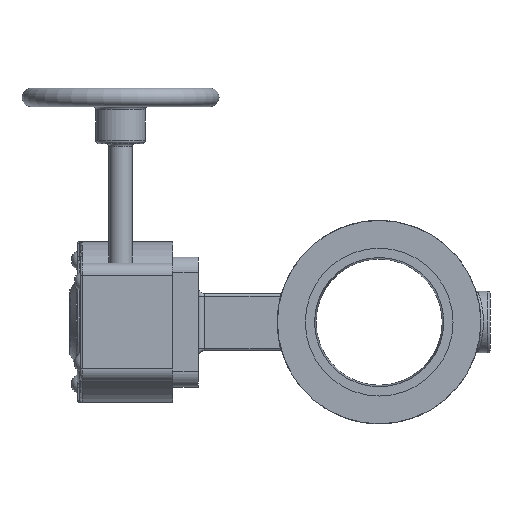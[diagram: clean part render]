
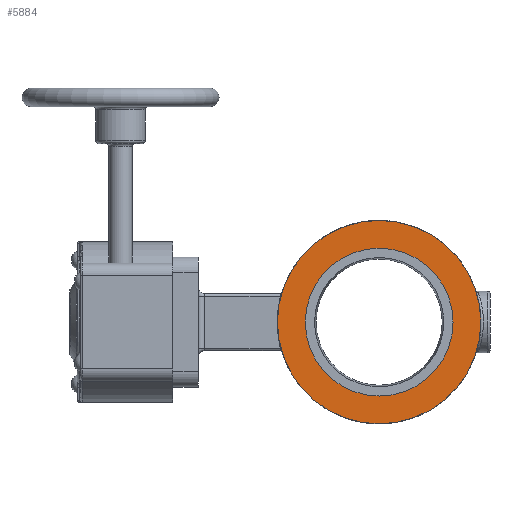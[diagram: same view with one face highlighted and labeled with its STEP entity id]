
A CAD part, left-side view. The second image highlights one B-rep face of the part: STEP entity #5884.
In plain terms, the highlighted planar face has unit normal (-1, 0, 0) as drawn and (0, 0, 1) by its records, which use the part's own axes.
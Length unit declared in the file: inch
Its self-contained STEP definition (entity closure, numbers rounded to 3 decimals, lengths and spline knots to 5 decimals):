
#202=FACE_BOUND('',#795,.T.);
#261=PLANE('',#6437);
#419=FACE_OUTER_BOUND('',#794,.T.);
#794=EDGE_LOOP('',(#3994,#3995));
#795=EDGE_LOOP('',(#3996,#3997));
#1803=CIRCLE('',#6372,2.065);
#1804=CIRCLE('',#6373,2.065);
#1843=CIRCLE('',#6435,1.4225);
#1844=CIRCLE('',#6436,1.4225);
#2338=VERTEX_POINT('',#9871);
#2339=VERTEX_POINT('',#9873);
#2359=VERTEX_POINT('',#10119);
#2360=VERTEX_POINT('',#10120);
#2907=EDGE_CURVE('',#2338,#2339,#1803,.T.);
#2908=EDGE_CURVE('',#2339,#2338,#1804,.T.);
#2952=EDGE_CURVE('',#2359,#2360,#1843,.T.);
#2953=EDGE_CURVE('',#2360,#2359,#1844,.T.);
#3994=ORIENTED_EDGE('',*,*,#2908,.F.);
#3995=ORIENTED_EDGE('',*,*,#2907,.F.);
#3996=ORIENTED_EDGE('',*,*,#2952,.T.);
#3997=ORIENTED_EDGE('',*,*,#2953,.T.);
#5884=ADVANCED_FACE('',(#419,#202),#261,.T.);
#6372=AXIS2_PLACEMENT_3D('',#9874,#7391,#7392);
#6373=AXIS2_PLACEMENT_3D('',#9875,#7393,#7394);
#6435=AXIS2_PLACEMENT_3D('',#10121,#7520,#7521);
#6436=AXIS2_PLACEMENT_3D('',#10122,#7522,#7523);
#6437=AXIS2_PLACEMENT_3D('',#10124,#7525,#7526);
#7391=DIRECTION('center_axis',(0.,0.,-1.));
#7392=DIRECTION('ref_axis',(1.,0.,0.));
#7393=DIRECTION('center_axis',(0.,0.,-1.));
#7394=DIRECTION('ref_axis',(1.,0.,0.));
#7520=DIRECTION('center_axis',(0.,0.,-1.));
#7521=DIRECTION('ref_axis',(1.,0.,0.));
#7522=DIRECTION('center_axis',(0.,0.,-1.));
#7523=DIRECTION('ref_axis',(1.,0.,0.));
#7525=DIRECTION('center_axis',(0.,0.,1.));
#7526=DIRECTION('ref_axis',(1.,0.,0.));
#9871=CARTESIAN_POINT('',(0.,-2.065,1.062));
#9873=CARTESIAN_POINT('',(0.,2.065,1.062));
#9874=CARTESIAN_POINT('Origin',(0.,0.,1.062));
#9875=CARTESIAN_POINT('Origin',(0.,0.,1.062));
#10119=CARTESIAN_POINT('',(0.,1.4225,1.062));
#10120=CARTESIAN_POINT('',(0.,-1.4225,1.062));
#10121=CARTESIAN_POINT('Origin',(0.,0.,1.062));
#10122=CARTESIAN_POINT('Origin',(0.,0.,1.062));
#10124=CARTESIAN_POINT('Origin',(0.,2.065,1.062));
